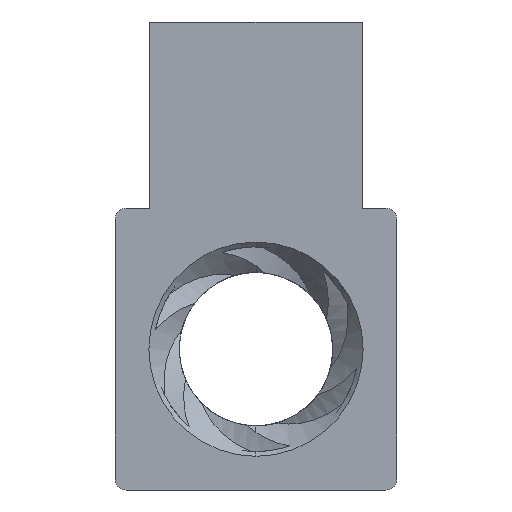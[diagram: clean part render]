
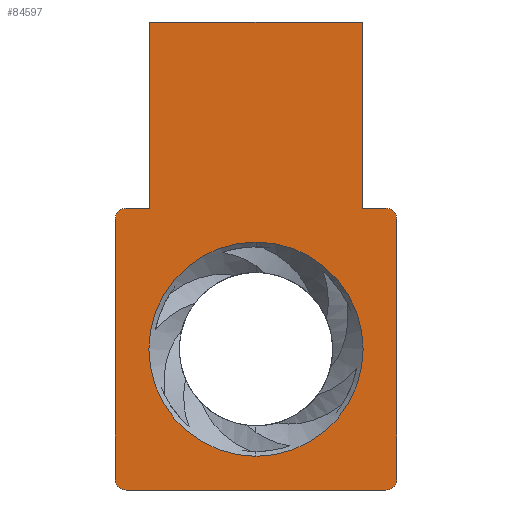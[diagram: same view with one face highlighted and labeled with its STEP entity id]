
A CAD part, front view. The second image highlights one B-rep face of the part: STEP entity #84597.
In plain terms, the highlighted planar face has unit normal (0, -1, 0).
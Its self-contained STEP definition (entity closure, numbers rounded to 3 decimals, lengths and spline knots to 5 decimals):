
#308 = VECTOR ( 'NONE', #88278, 39.37008 ) ;
#357 = DIRECTION ( 'NONE',  ( 0., -1., 0. ) ) ;
#621 = CARTESIAN_POINT ( 'NONE',  ( -0.1625, -1.3, 0.15 ) ) ;
#700 = DIRECTION ( 'NONE',  ( 0., 0., 1. ) ) ;
#703 = VERTEX_POINT ( 'NONE', #32325 ) ;
#1932 = EDGE_CURVE ( 'NONE', #3654, #50882, #93926, .T. ) ;
#2064 = LINE ( 'NONE', #74329, #22489 ) ;
#2428 = CARTESIAN_POINT ( 'NONE',  ( -0.1625, -1.3, 0. ) ) ;
#3654 = VERTEX_POINT ( 'NONE', #104468 ) ;
#3835 = PLANE ( 'NONE',  #17419 ) ;
#5672 = LINE ( 'NONE', #94940, #74746 ) ;
#6466 = AXIS2_PLACEMENT_3D ( 'NONE', #70145, #27909, #95818 ) ;
#8982 = CARTESIAN_POINT ( 'NONE',  ( -0.12257, -1.3, 0.1625 ) ) ;
#9461 = DIRECTION ( 'NONE',  ( 0., 0., -1. ) ) ;
#11785 = AXIS2_PLACEMENT_3D ( 'NONE', #51878, #19312, #28225 ) ;
#12977 = EDGE_CURVE ( 'NONE', #65681, #703, #34891, .T. ) ;
#13789 = ORIENTED_EDGE ( 'NONE', *, *, #44387, .T. ) ;
#16834 = CARTESIAN_POINT ( 'NONE',  ( -0.15, -1.3, 0.15 ) ) ;
#17419 = AXIS2_PLACEMENT_3D ( 'NONE', #70024, #69315, #44245 ) ;
#18881 = ORIENTED_EDGE ( 'NONE', *, *, #61157, .F. ) ;
#19233 = DIRECTION ( 'NONE',  ( 0., 0., 1. ) ) ;
#19312 = DIRECTION ( 'NONE',  ( 0., -1., 0. ) ) ;
#19991 = ORIENTED_EDGE ( 'NONE', *, *, #33476, .T. ) ;
#22489 = VECTOR ( 'NONE', #90753, 39.37008 ) ;
#23533 = ORIENTED_EDGE ( 'NONE', *, *, #67222, .T. ) ;
#25029 = CARTESIAN_POINT ( 'NONE',  ( 0.15, -1.3, 0.1625 ) ) ;
#25413 = ORIENTED_EDGE ( 'NONE', *, *, #1932, .T. ) ;
#25549 = DIRECTION ( 'NONE',  ( 0., -1., 0. ) ) ;
#27056 = CARTESIAN_POINT ( 'NONE',  ( 0., -1.3, 0.1625 ) ) ;
#27341 = ORIENTED_EDGE ( 'NONE', *, *, #38388, .T. ) ;
#27445 = VERTEX_POINT ( 'NONE', #94661 ) ;
#27909 = DIRECTION ( 'NONE',  ( 0., -1., 0. ) ) ;
#28225 = DIRECTION ( 'NONE',  ( 0., 0., -1. ) ) ;
#28901 = VERTEX_POINT ( 'NONE', #96400 ) ;
#30091 = DIRECTION ( 'NONE',  ( 0., -1., 0. ) ) ;
#30177 = VERTEX_POINT ( 'NONE', #101261 ) ;
#32325 = CARTESIAN_POINT ( 'NONE',  ( 0., -1.3, 0.12362 ) ) ;
#33476 = EDGE_CURVE ( 'NONE', #47009, #3654, #37852, .T. ) ;
#34835 = ORIENTED_EDGE ( 'NONE', *, *, #73510, .F. ) ;
#34891 = CIRCLE ( 'NONE', #57430, 0.12362 ) ;
#35535 = DIRECTION ( 'NONE',  ( 0., 0., -1. ) ) ;
#36535 = LINE ( 'NONE', #27056, #57112 ) ;
#36724 = VERTEX_POINT ( 'NONE', #103859 ) ;
#37636 = AXIS2_PLACEMENT_3D ( 'NONE', #75303, #43061, #35535 ) ;
#37852 = LINE ( 'NONE', #82635, #67347 ) ;
#38388 = EDGE_CURVE ( 'NONE', #50882, #78634, #49472, .T. ) ;
#40625 = VERTEX_POINT ( 'NONE', #8982 ) ;
#40870 = AXIS2_PLACEMENT_3D ( 'NONE', #16834, #357, #81234 ) ;
#42290 = CIRCLE ( 'NONE', #59280, 0.12362 ) ;
#43061 = DIRECTION ( 'NONE',  ( 0., -1., 0. ) ) ;
#43301 = VERTEX_POINT ( 'NONE', #621 ) ;
#43691 = EDGE_CURVE ( 'NONE', #57355, #78634, #2064, .T. ) ;
#44245 = DIRECTION ( 'NONE',  ( 0., 0., -1. ) ) ;
#44387 = EDGE_CURVE ( 'NONE', #40625, #36724, #36535, .T. ) ;
#46901 = CARTESIAN_POINT ( 'NONE',  ( 0., -1.3, 0. ) ) ;
#47009 = VERTEX_POINT ( 'NONE', #86751 ) ;
#49196 = ORIENTED_EDGE ( 'NONE', *, *, #86934, .F. ) ;
#49472 = LINE ( 'NONE', #50965, #76406 ) ;
#50780 = EDGE_CURVE ( 'NONE', #36724, #43301, #64707, .T. ) ;
#50882 = VERTEX_POINT ( 'NONE', #25029 ) ;
#50965 = CARTESIAN_POINT ( 'NONE',  ( 0., -1.3, 0.1625 ) ) ;
#51878 = CARTESIAN_POINT ( 'NONE',  ( 0.15, -1.3, -0.15 ) ) ;
#52647 = ORIENTED_EDGE ( 'NONE', *, *, #43691, .F. ) ;
#55401 = EDGE_LOOP ( 'NONE', ( #76313, #93962, #18881, #23533, #19991, #25413, #27341, #52647, #34835, #98063, #13789, #77896 ) ) ;
#55761 = CARTESIAN_POINT ( 'NONE',  ( -0.12257, -1.3, 0. ) ) ;
#56497 = VECTOR ( 'NONE', #19233, 39.37008 ) ;
#57024 = VERTEX_POINT ( 'NONE', #69250 ) ;
#57112 = VECTOR ( 'NONE', #75752, 39.37008 ) ;
#57355 = VERTEX_POINT ( 'NONE', #68196 ) ;
#57430 = AXIS2_PLACEMENT_3D ( 'NONE', #46901, #30091, #61982 ) ;
#57922 = VECTOR ( 'NONE', #101508, 39.37008 ) ;
#59208 = DIRECTION ( 'NONE',  ( -1., 0., 0. ) ) ;
#59280 = AXIS2_PLACEMENT_3D ( 'NONE', #99916, #25549, #9461 ) ;
#61157 = EDGE_CURVE ( 'NONE', #30177, #57024, #5672, .T. ) ;
#61982 = DIRECTION ( 'NONE',  ( 0., 0., -1. ) ) ;
#62460 = DIRECTION ( 'NONE',  ( -1., 0., 0. ) ) ;
#62775 = FACE_BOUND ( 'NONE', #70373, .T. ) ;
#64707 = CIRCLE ( 'NONE', #40870, 0.0125 ) ;
#65681 = VERTEX_POINT ( 'NONE', #98362 ) ;
#66965 = LINE ( 'NONE', #55761, #308 ) ;
#67222 = EDGE_CURVE ( 'NONE', #30177, #47009, #86131, .T. ) ;
#67347 = VECTOR ( 'NONE', #700, 39.37008 ) ;
#68042 = EDGE_CURVE ( 'NONE', #40625, #28901, #66965, .T. ) ;
#68196 = CARTESIAN_POINT ( 'NONE',  ( 0.12257, -1.3, 0.3775 ) ) ;
#68683 = CARTESIAN_POINT ( 'NONE',  ( 0., -1.3, 0.3775 ) ) ;
#69250 = CARTESIAN_POINT ( 'NONE',  ( -0.15, -1.3, -0.1625 ) ) ;
#69315 = DIRECTION ( 'NONE',  ( 0., -1., 0. ) ) ;
#70024 = CARTESIAN_POINT ( 'NONE',  ( 0., -1.3, 0. ) ) ;
#70145 = CARTESIAN_POINT ( 'NONE',  ( -0.15, -1.3, -0.15 ) ) ;
#70373 = EDGE_LOOP ( 'NONE', ( #72555, #49196 ) ) ;
#70471 = CIRCLE ( 'NONE', #6466, 0.0125 ) ;
#72555 = ORIENTED_EDGE ( 'NONE', *, *, #12977, .F. ) ;
#73510 = EDGE_CURVE ( 'NONE', #28901, #57355, #77116, .T. ) ;
#74329 = CARTESIAN_POINT ( 'NONE',  ( 0.12257, -1.3, 0. ) ) ;
#74746 = VECTOR ( 'NONE', #62460, 39.37008 ) ;
#75303 = CARTESIAN_POINT ( 'NONE',  ( 0.15, -1.3, 0.15 ) ) ;
#75752 = DIRECTION ( 'NONE',  ( -1., 0., 0. ) ) ;
#76313 = ORIENTED_EDGE ( 'NONE', *, *, #84138, .F. ) ;
#76406 = VECTOR ( 'NONE', #59208, 39.37008 ) ;
#77116 = LINE ( 'NONE', #68683, #57922 ) ;
#77896 = ORIENTED_EDGE ( 'NONE', *, *, #50780, .T. ) ;
#78266 = LINE ( 'NONE', #2428, #56497 ) ;
#78634 = VERTEX_POINT ( 'NONE', #79561 ) ;
#79561 = CARTESIAN_POINT ( 'NONE',  ( 0.12257, -1.3, 0.1625 ) ) ;
#81234 = DIRECTION ( 'NONE',  ( 0., 0., -1. ) ) ;
#82635 = CARTESIAN_POINT ( 'NONE',  ( 0.1625, -1.3, 0. ) ) ;
#84138 = EDGE_CURVE ( 'NONE', #27445, #43301, #78266, .T. ) ;
#84597 = ADVANCED_FACE ( 'NONE', ( #62775, #94744 ), #3835, .T. ) ;
#86131 = CIRCLE ( 'NONE', #11785, 0.0125 ) ;
#86751 = CARTESIAN_POINT ( 'NONE',  ( 0.1625, -1.3, -0.15 ) ) ;
#86934 = EDGE_CURVE ( 'NONE', #703, #65681, #42290, .T. ) ;
#87558 = EDGE_CURVE ( 'NONE', #27445, #57024, #70471, .T. ) ;
#88278 = DIRECTION ( 'NONE',  ( 0., 0., 1. ) ) ;
#90753 = DIRECTION ( 'NONE',  ( 0., 0., -1. ) ) ;
#93926 = CIRCLE ( 'NONE', #37636, 0.0125 ) ;
#93962 = ORIENTED_EDGE ( 'NONE', *, *, #87558, .T. ) ;
#94661 = CARTESIAN_POINT ( 'NONE',  ( -0.1625, -1.3, -0.15 ) ) ;
#94744 = FACE_OUTER_BOUND ( 'NONE', #55401, .T. ) ;
#94940 = CARTESIAN_POINT ( 'NONE',  ( 0., -1.3, -0.1625 ) ) ;
#95818 = DIRECTION ( 'NONE',  ( 0., 0., -1. ) ) ;
#96400 = CARTESIAN_POINT ( 'NONE',  ( -0.12257, -1.3, 0.3775 ) ) ;
#98063 = ORIENTED_EDGE ( 'NONE', *, *, #68042, .F. ) ;
#98362 = CARTESIAN_POINT ( 'NONE',  ( 0., -1.3, -0.12362 ) ) ;
#99916 = CARTESIAN_POINT ( 'NONE',  ( 0., -1.3, 0. ) ) ;
#101261 = CARTESIAN_POINT ( 'NONE',  ( 0.15, -1.3, -0.1625 ) ) ;
#101508 = DIRECTION ( 'NONE',  ( 1., 0., 0. ) ) ;
#103859 = CARTESIAN_POINT ( 'NONE',  ( -0.15, -1.3, 0.1625 ) ) ;
#104468 = CARTESIAN_POINT ( 'NONE',  ( 0.1625, -1.3, 0.15 ) ) ;
